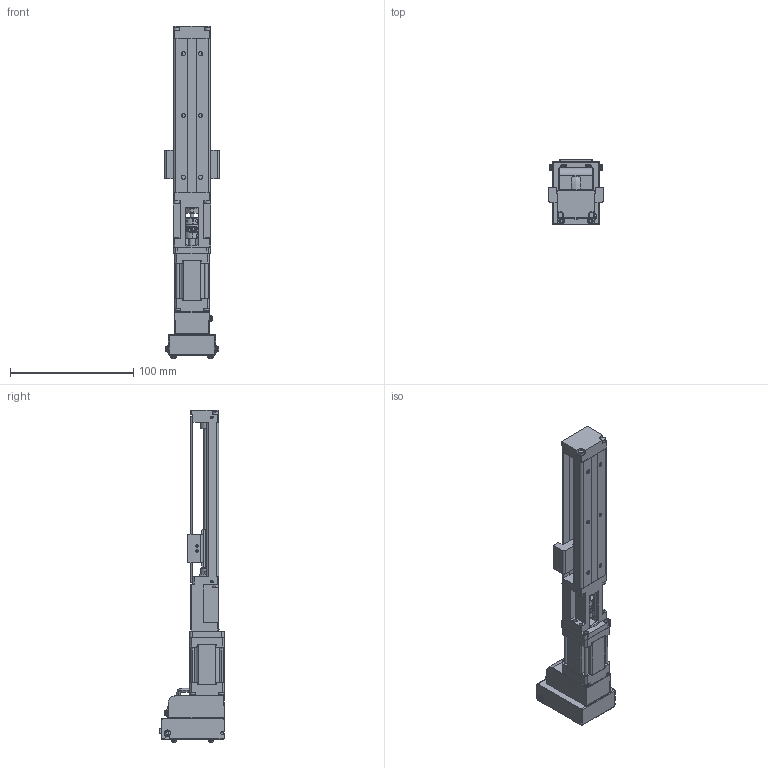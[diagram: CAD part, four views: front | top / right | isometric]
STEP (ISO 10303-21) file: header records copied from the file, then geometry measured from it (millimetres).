
FILE_DESCRIPTION (( 'STEP AP214' ), '1' );
FILE_NAME ('PA15-A-01-075-X-10A0-11L30-X.STEP', '2015-01-06T14:21:08', ( '' ), ( '' ), 'SwSTEP 2.0', 'SolidWorks 2015', '' );
FILE_SCHEMA (( 'AUTOMOTIVE_DESIGN' ));
Length unit declared in the file: millimetre
Products named in the file (5): RCLA13C-0.250-5; PA15-A-01-075-S-10A0; PA15-NEMA11-MountingBracket; CM1-X-11L30_CM1-X-11L30; PA15-A-01-075-X-10A0-11L30-X
Assembly tree (4 placements, depth 2):
  PA15-A-01-075-X-10A0-11L30-X
    CM1-X-11L30_CM1-X-11L30
    PA15-NEMA11-MountingBracket
    PA15-A-01-075-S-10A0
    RCLA13C-0.250-5
Bounding box: 44 x 52.35 x 268.9 mm (x, y, z)
Volume: 134770.7 mm3; surface area: 79898.5 mm2
Topology: 38 solids, 38 shells, 1835 faces, 4754 edges, 3049 vertices
Faces by surface type: plane 1018, cylinder 630, cone 123, torus 56, bspline 8
Entity records: 74882 total; most frequent: CARTESIAN_POINT 18012, ORIENTED_EDGE 9420, DIRECTION 9406, EDGE_CURVE 4710, AXIS2_PLACEMENT_3D 3143, LINE 3120, VECTOR 3120, VERTEX_POINT 3049
